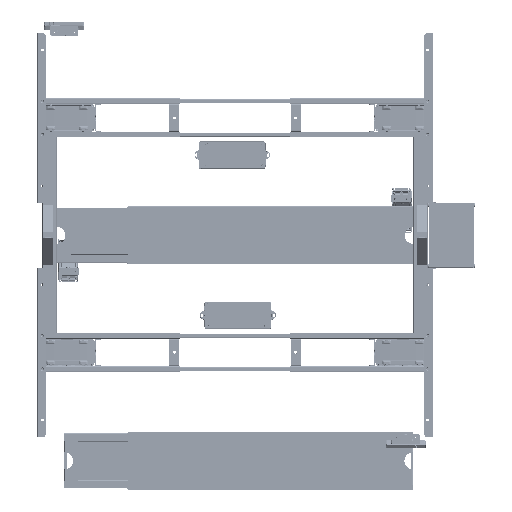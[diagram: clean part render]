
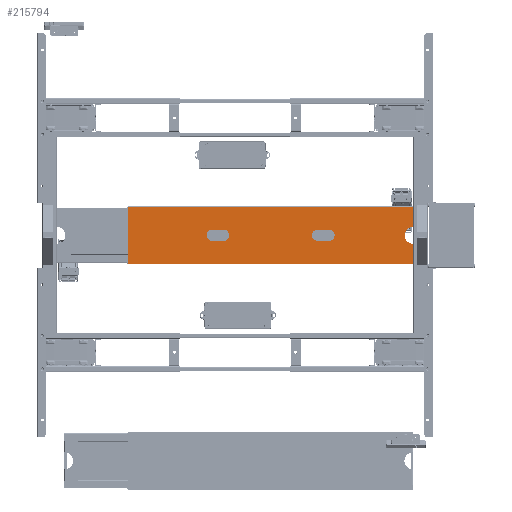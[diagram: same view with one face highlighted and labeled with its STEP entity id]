
A CAD part, top view. The second image highlights one B-rep face of the part: STEP entity #215794.
In plain terms, the highlighted planar face has unit normal (0, 0, 1).
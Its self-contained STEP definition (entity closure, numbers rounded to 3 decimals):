
#214255=CARTESIAN_POINT('Vertex',(-502.8,-84.5,1.2)) ;
#214258=CARTESIAN_POINT('Line Origine',(-502.8,0.,1.2)) ;
#214262=CARTESIAN_POINT('Vertex',(-502.8,-29.952,1.2)) ;
#214377=CARTESIAN_POINT('Axis2P3D Location',(-504.5,0.,1.2)) ;
#214381=CARTESIAN_POINT('Vertex',(-474.5,0.,1.2)) ;
#214408=CARTESIAN_POINT('Axis2P3D Location',(-504.5,0.,1.2)) ;
#214412=CARTESIAN_POINT('Vertex',(-502.8,29.952,1.2)) ;
#214676=CARTESIAN_POINT('Vertex',(-502.8,84.5,1.2)) ;
#215277=CARTESIAN_POINT('Vertex',(-504.5,101.3,1.2)) ;
#215311=CARTESIAN_POINT('Vertex',(504.5,101.3,1.2)) ;
#215381=CARTESIAN_POINT('Vertex',(-504.5,-84.5,1.2)) ;
#215384=CARTESIAN_POINT('Line Origine',(-503.65,-84.5,1.2)) ;
#215442=CARTESIAN_POINT('Line Origine',(-502.8,0.,1.2)) ;
#215463=CARTESIAN_POINT('Vertex',(166.5,20.,1.2)) ;
#215466=CARTESIAN_POINT('Axis2P3D Location',(166.5,0.,1.2)) ;
#215470=CARTESIAN_POINT('Vertex',(166.5,-20.,1.2)) ;
#215494=CARTESIAN_POINT('Vertex',(206.5,20.,1.2)) ;
#215497=CARTESIAN_POINT('Line Origine',(186.5,20.,1.2)) ;
#215518=CARTESIAN_POINT('Vertex',(-166.5,-20.,1.2)) ;
#215521=CARTESIAN_POINT('Axis2P3D Location',(-166.5,0.,1.2)) ;
#215525=CARTESIAN_POINT('Vertex',(-166.5,20.,1.2)) ;
#215549=CARTESIAN_POINT('Vertex',(-206.5,-20.,1.2)) ;
#215552=CARTESIAN_POINT('Line Origine',(-186.5,-20.,1.2)) ;
#215573=CARTESIAN_POINT('Vertex',(-206.5,20.,1.2)) ;
#215576=CARTESIAN_POINT('Axis2P3D Location',(-206.5,0.,1.2)) ;
#215593=CARTESIAN_POINT('Line Origine',(-186.5,20.,1.2)) ;
#215614=CARTESIAN_POINT('Vertex',(206.5,-20.,1.2)) ;
#215617=CARTESIAN_POINT('Axis2P3D Location',(206.5,0.,1.2)) ;
#215634=CARTESIAN_POINT('Line Origine',(186.5,-20.,1.2)) ;
#215651=CARTESIAN_POINT('Line Origine',(-503.65,84.5,1.2)) ;
#215655=CARTESIAN_POINT('Vertex',(-504.5,84.5,1.2)) ;
#215675=CARTESIAN_POINT('Line Origine',(0.,101.3,1.2)) ;
#215692=CARTESIAN_POINT('Line Origine',(-504.5,92.9,1.2)) ;
#215709=CARTESIAN_POINT('Line Origine',(504.5,0.,1.2)) ;
#215713=CARTESIAN_POINT('Vertex',(504.5,-101.3,1.2)) ;
#215732=CARTESIAN_POINT('Vertex',(-504.5,-101.3,1.2)) ;
#215735=CARTESIAN_POINT('Line Origine',(-504.5,-92.9,1.2)) ;
#215759=CARTESIAN_POINT('Axis2P3D Location',(0.,0.,1.2)) ;
#215764=CARTESIAN_POINT('Line Origine',(0.,-101.3,1.2)) ;
#214259=DIRECTION('Vector Direction',(0.,-1.,0.)) ;
#214378=DIRECTION('Axis2P3D Direction',(0.,0.,1.)) ;
#214409=DIRECTION('Axis2P3D Direction',(0.,0.,1.)) ;
#215385=DIRECTION('Vector Direction',(1.,0.,0.)) ;
#215443=DIRECTION('Vector Direction',(0.,-1.,0.)) ;
#215467=DIRECTION('Axis2P3D Direction',(0.,0.,1.)) ;
#215498=DIRECTION('Vector Direction',(-1.,0.,0.)) ;
#215522=DIRECTION('Axis2P3D Direction',(0.,0.,1.)) ;
#215553=DIRECTION('Vector Direction',(-1.,0.,0.)) ;
#215577=DIRECTION('Axis2P3D Direction',(0.,0.,1.)) ;
#215594=DIRECTION('Vector Direction',(1.,0.,0.)) ;
#215618=DIRECTION('Axis2P3D Direction',(0.,0.,1.)) ;
#215635=DIRECTION('Vector Direction',(1.,0.,0.)) ;
#215652=DIRECTION('Vector Direction',(1.,0.,0.)) ;
#215676=DIRECTION('Vector Direction',(-1.,0.,0.)) ;
#215693=DIRECTION('Vector Direction',(0.,-1.,0.)) ;
#215710=DIRECTION('Vector Direction',(0.,1.,0.)) ;
#215736=DIRECTION('Vector Direction',(0.,-1.,0.)) ;
#215760=DIRECTION('Axis2P3D Direction',(0.,0.,1.)) ;
#215761=DIRECTION('Axis2P3D XDirection',(1.,0.,0.)) ;
#215765=DIRECTION('Vector Direction',(1.,0.,0.)) ;
#214379=AXIS2_PLACEMENT_3D('Circle Axis2P3D',#214377,#214378,$) ;
#214410=AXIS2_PLACEMENT_3D('Circle Axis2P3D',#214408,#214409,$) ;
#215468=AXIS2_PLACEMENT_3D('Circle Axis2P3D',#215466,#215467,$) ;
#215523=AXIS2_PLACEMENT_3D('Circle Axis2P3D',#215521,#215522,$) ;
#215578=AXIS2_PLACEMENT_3D('Circle Axis2P3D',#215576,#215577,$) ;
#215619=AXIS2_PLACEMENT_3D('Circle Axis2P3D',#215617,#215618,$) ;
#215762=AXIS2_PLACEMENT_3D('Plane Axis2P3D',#215759,#215760,#215761) ;
#215770=ORIENTED_EDGE('',*,*,#214414,.F.) ;
#215771=ORIENTED_EDGE('',*,*,#214383,.F.) ;
#215772=ORIENTED_EDGE('',*,*,#214264,.T.) ;
#215773=ORIENTED_EDGE('',*,*,#215388,.F.) ;
#215774=ORIENTED_EDGE('',*,*,#215739,.T.) ;
#215775=ORIENTED_EDGE('',*,*,#215768,.T.) ;
#215776=ORIENTED_EDGE('',*,*,#215715,.T.) ;
#215777=ORIENTED_EDGE('',*,*,#215679,.T.) ;
#215778=ORIENTED_EDGE('',*,*,#215696,.T.) ;
#215779=ORIENTED_EDGE('',*,*,#215657,.T.) ;
#215780=ORIENTED_EDGE('',*,*,#215446,.T.) ;
#215783=ORIENTED_EDGE('',*,*,#215472,.F.) ;
#215784=ORIENTED_EDGE('',*,*,#215501,.F.) ;
#215785=ORIENTED_EDGE('',*,*,#215621,.F.) ;
#215786=ORIENTED_EDGE('',*,*,#215638,.F.) ;
#215789=ORIENTED_EDGE('',*,*,#215580,.F.) ;
#215790=ORIENTED_EDGE('',*,*,#215597,.T.) ;
#215791=ORIENTED_EDGE('',*,*,#215527,.F.) ;
#215792=ORIENTED_EDGE('',*,*,#215556,.T.) ;
#215787=FACE_BOUND('',#215782,.T.) ;
#215793=FACE_BOUND('',#215788,.T.) ;
#214260=VECTOR('Line Direction',#214259,1.) ;
#215386=VECTOR('Line Direction',#215385,1.) ;
#215444=VECTOR('Line Direction',#215443,1.) ;
#215499=VECTOR('Line Direction',#215498,1.) ;
#215554=VECTOR('Line Direction',#215553,1.) ;
#215595=VECTOR('Line Direction',#215594,1.) ;
#215636=VECTOR('Line Direction',#215635,1.) ;
#215653=VECTOR('Line Direction',#215652,1.) ;
#215677=VECTOR('Line Direction',#215676,1.) ;
#215694=VECTOR('Line Direction',#215693,1.) ;
#215711=VECTOR('Line Direction',#215710,1.) ;
#215737=VECTOR('Line Direction',#215736,1.) ;
#215766=VECTOR('Line Direction',#215765,1.) ;
#215794=ADVANCED_FACE('\X2\96F64EF651E04F554F53\X0\',(#215781,#215787,#215793),#215763,.T.) ;
#214380=CIRCLE('generated circle',#214379,30.) ;
#214411=CIRCLE('generated circle',#214410,30.) ;
#215469=CIRCLE('generated circle',#215468,20.) ;
#215524=CIRCLE('generated circle',#215523,20.) ;
#215579=CIRCLE('generated circle',#215578,20.) ;
#215620=CIRCLE('generated circle',#215619,20.) ;
#214264=EDGE_CURVE('',#214263,#214256,#214261,.T.) ;
#214383=EDGE_CURVE('',#214263,#214382,#214380,.T.) ;
#214414=EDGE_CURVE('',#214382,#214413,#214411,.T.) ;
#215388=EDGE_CURVE('',#215382,#214256,#215387,.T.) ;
#215446=EDGE_CURVE('',#214677,#214413,#215445,.T.) ;
#215472=EDGE_CURVE('',#215464,#215471,#215469,.T.) ;
#215501=EDGE_CURVE('',#215495,#215464,#215500,.T.) ;
#215527=EDGE_CURVE('',#215519,#215526,#215524,.T.) ;
#215556=EDGE_CURVE('',#215519,#215550,#215555,.T.) ;
#215580=EDGE_CURVE('',#215574,#215550,#215579,.T.) ;
#215597=EDGE_CURVE('',#215574,#215526,#215596,.T.) ;
#215621=EDGE_CURVE('',#215615,#215495,#215620,.T.) ;
#215638=EDGE_CURVE('',#215471,#215615,#215637,.T.) ;
#215657=EDGE_CURVE('',#215656,#214677,#215654,.T.) ;
#215679=EDGE_CURVE('',#215312,#215278,#215678,.T.) ;
#215696=EDGE_CURVE('',#215278,#215656,#215695,.T.) ;
#215715=EDGE_CURVE('',#215714,#215312,#215712,.T.) ;
#215739=EDGE_CURVE('',#215382,#215733,#215738,.T.) ;
#215768=EDGE_CURVE('',#215733,#215714,#215767,.T.) ;
#215769=EDGE_LOOP('',(#215770,#215771,#215772,#215773,#215774,#215775,#215776,#215777,#215778,#215779,#215780)) ;
#215782=EDGE_LOOP('',(#215783,#215784,#215785,#215786)) ;
#215788=EDGE_LOOP('',(#215789,#215790,#215791,#215792)) ;
#215781=FACE_OUTER_BOUND('',#215769,.T.) ;
#214261=LINE('Line',#214258,#214260) ;
#215387=LINE('Line',#215384,#215386) ;
#215445=LINE('Line',#215442,#215444) ;
#215500=LINE('Line',#215497,#215499) ;
#215555=LINE('Line',#215552,#215554) ;
#215596=LINE('Line',#215593,#215595) ;
#215637=LINE('Line',#215634,#215636) ;
#215654=LINE('Line',#215651,#215653) ;
#215678=LINE('Line',#215675,#215677) ;
#215695=LINE('Line',#215692,#215694) ;
#215712=LINE('Line',#215709,#215711) ;
#215738=LINE('Line',#215735,#215737) ;
#215767=LINE('Line',#215764,#215766) ;
#215763=PLANE('',#215762) ;
#214256=VERTEX_POINT('',#214255) ;
#214263=VERTEX_POINT('',#214262) ;
#214382=VERTEX_POINT('',#214381) ;
#214413=VERTEX_POINT('',#214412) ;
#214677=VERTEX_POINT('',#214676) ;
#215278=VERTEX_POINT('',#215277) ;
#215312=VERTEX_POINT('',#215311) ;
#215382=VERTEX_POINT('',#215381) ;
#215464=VERTEX_POINT('',#215463) ;
#215471=VERTEX_POINT('',#215470) ;
#215495=VERTEX_POINT('',#215494) ;
#215519=VERTEX_POINT('',#215518) ;
#215526=VERTEX_POINT('',#215525) ;
#215550=VERTEX_POINT('',#215549) ;
#215574=VERTEX_POINT('',#215573) ;
#215615=VERTEX_POINT('',#215614) ;
#215656=VERTEX_POINT('',#215655) ;
#215714=VERTEX_POINT('',#215713) ;
#215733=VERTEX_POINT('',#215732) ;
